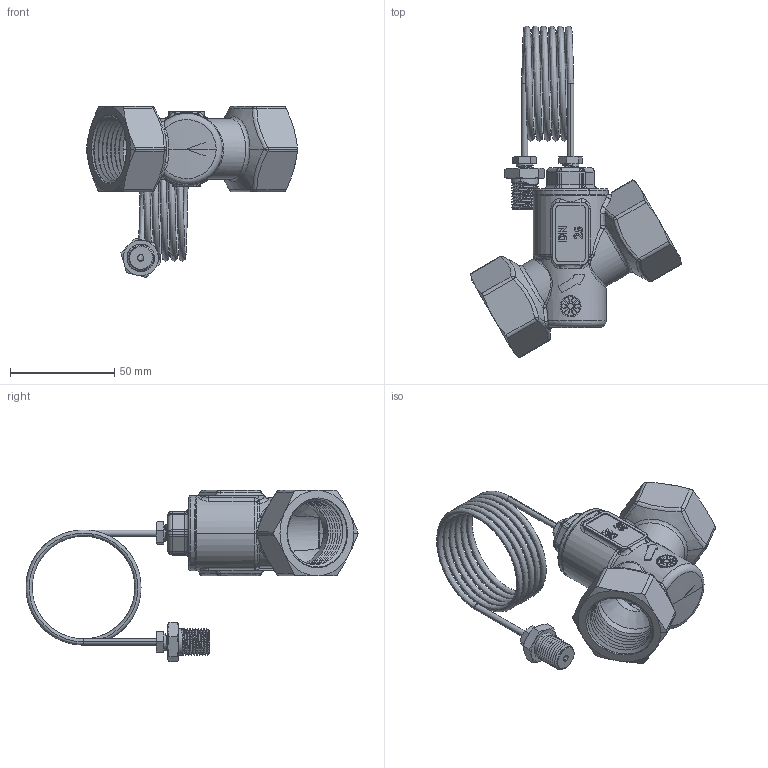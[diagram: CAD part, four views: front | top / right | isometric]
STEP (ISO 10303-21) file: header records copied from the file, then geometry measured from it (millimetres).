
FILE_DESCRIPTION (( 'STEP AP203' ), '1' );
FILE_NAME ('SDP.20 AHouse DN25 ISO FF.step', '2024-04-12T07:28:23', ( '' ), ( '' ), 'SwSTEP 2.0', 'SolidWorks 2023', '' );
FILE_SCHEMA (( 'CONFIG_CONTROL_DESIGN' ));
Length unit declared in the file: millimetre
Products named in the file (1): SDP.20 AHouse DN25 ISO FF
Bounding box: 101.23 x 159.31 x 82.12 mm (x, y, z)
Surface area: 41449.7 mm2 (no closed solid volume)
Topology: 0 solids, 10 shells, 678 faces, 1964 edges, 1260 vertices
Faces by surface type: cylinder 212, plane 211, bspline 118, cone 64, torus 47, sphere 26
Entity records: 37969 total; most frequent: CARTESIAN_POINT 21769, ORIENTED_EDGE 3488, DIRECTION 3041, EDGE_CURVE 1938, VERTEX_POINT 1260, AXIS2_PLACEMENT_3D 1136, VECTOR 769, LINE 769
